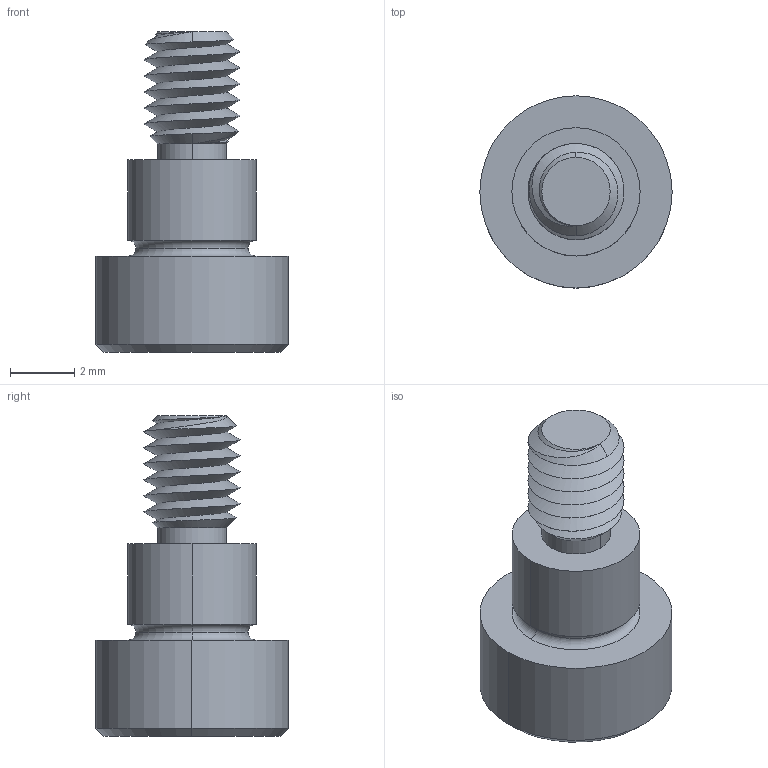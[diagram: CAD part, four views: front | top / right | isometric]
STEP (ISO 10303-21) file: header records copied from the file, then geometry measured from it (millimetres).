
FILE_DESCRIPTION (( 'STEP AP203' ), '1' );
FILE_NAME ('P0130.040-003-B2.step', '2021-11-09T21:00:08', ( '' ), ( '' ), 'SwSTEP 2.0', 'SolidWorks 2019', '' );
FILE_SCHEMA (( 'CONFIG_CONTROL_DESIGN' ));
Length unit declared in the file: millimetre
Products named in the file (1): P0130.040-003-B2
Bounding box: 6 x 6 x 10 mm (x, y, z)
Volume: 132.9 mm3; surface area: 222 mm2
Topology: 1 solids, 1 shells, 54 faces, 124 edges, 73 vertices
Faces by surface type: cylinder 18, plane 16, cone 14, torus 4, bspline 2
Entity records: 2218 total; most frequent: CARTESIAN_POINT 1016, ORIENTED_EDGE 244, DIRECTION 229, EDGE_CURVE 122, AXIS2_PLACEMENT_3D 93, VERTEX_POINT 73, EDGE_LOOP 57, ADVANCED_FACE 54
